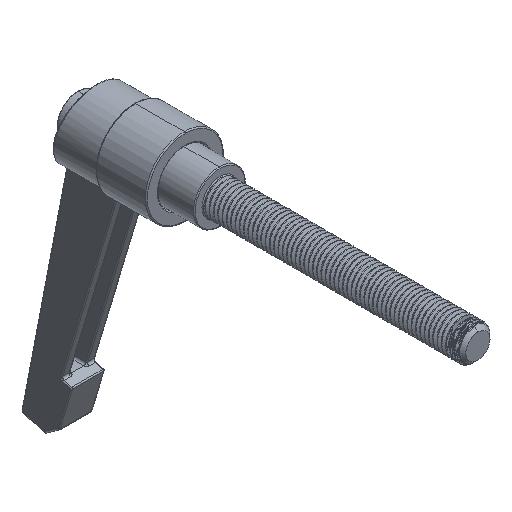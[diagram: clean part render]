
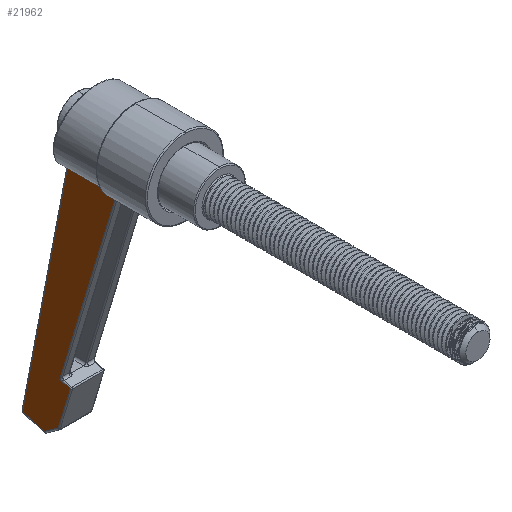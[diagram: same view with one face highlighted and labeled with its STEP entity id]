
A CAD part, isometric view. The second image highlights one B-rep face of the part: STEP entity #21962.
In plain terms, the highlighted planar face has unit normal (-1, 0, 0).
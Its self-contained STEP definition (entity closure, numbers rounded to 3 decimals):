
#1458 = LINE ( 'NONE', #13665, #30300 ) ;
#2034 = LINE ( 'NONE', #35040, #18538 ) ;
#2449 = ORIENTED_EDGE ( 'NONE', *, *, #26228, .T. ) ;
#3523 = DIRECTION ( 'NONE',  ( 0., -0.289, 0.957 ) ) ;
#3609 = DIRECTION ( 'NONE',  ( 0., -0.289, 0.957 ) ) ;
#3978 = VERTEX_POINT ( 'NONE', #16975 ) ;
#4119 = ORIENTED_EDGE ( 'NONE', *, *, #18806, .T. ) ;
#4703 = VERTEX_POINT ( 'NONE', #20793 ) ;
#5063 = ORIENTED_EDGE ( 'NONE', *, *, #39448, .T. ) ;
#5455 = ORIENTED_EDGE ( 'NONE', *, *, #19008, .T. ) ;
#5637 = PLANE ( 'NONE',  #19743 ) ;
#5843 = CARTESIAN_POINT ( 'NONE',  ( -3.9, 0., 0. ) ) ;
#6481 = EDGE_CURVE ( 'NONE', #25973, #13751, #2034, .T. ) ;
#6482 = CARTESIAN_POINT ( 'NONE',  ( -3.9, 11.7, -0.286 ) ) ;
#7804 = CARTESIAN_POINT ( 'NONE',  ( -3.9, 11.7, -0.286 ) ) ;
#7969 = DIRECTION ( 'NONE',  ( 0., -0.817, 0.577 ) ) ;
#8574 = CARTESIAN_POINT ( 'NONE',  ( -3.9, 16.898, -56.3 ) ) ;
#9207 = ORIENTED_EDGE ( 'NONE', *, *, #6481, .T. ) ;
#9908 = VERTEX_POINT ( 'NONE', #7804 ) ;
#9943 = CARTESIAN_POINT ( 'NONE',  ( -3.9, 0.239, 0.072 ) ) ;
#10696 = VECTOR ( 'NONE', #7969, 1000. ) ;
#10993 = LINE ( 'NONE', #35354, #10696 ) ;
#11662 = DIRECTION ( 'NONE',  ( 0., 0., 1. ) ) ;
#12703 = CARTESIAN_POINT ( 'NONE',  ( -3.9, 11.577, -0.298 ) ) ;
#12929 = EDGE_CURVE ( 'NONE', #9908, #15572, #38800, .T. ) ;
#13665 = CARTESIAN_POINT ( 'NONE',  ( -3.9, 0., -0.298 ) ) ;
#13679 = EDGE_CURVE ( 'NONE', #13751, #36163, #18751, .T. ) ;
#13751 = VERTEX_POINT ( 'NONE', #30740 ) ;
#15572 = VERTEX_POINT ( 'NONE', #20863 ) ;
#15682 = CARTESIAN_POINT ( 'NONE',  ( -3.9, 11.66, -0.294 ) ) ;
#16164 = LINE ( 'NONE', #8574, #26633 ) ;
#16975 = CARTESIAN_POINT ( 'NONE',  ( -3.9, 11.577, -0.298 ) ) ;
#17016 = CARTESIAN_POINT ( 'NONE',  ( -3.9, 11.036, -44.646 ) ) ;
#17372 = DIRECTION ( 'NONE',  ( 0., 0.189, -0.982 ) ) ;
#18538 = VECTOR ( 'NONE', #32229, 1000. ) ;
#18751 = LINE ( 'NONE', #9943, #31019 ) ;
#18806 = EDGE_CURVE ( 'NONE', #15572, #4703, #16164, .T. ) ;
#18832 = LINE ( 'NONE', #31015, #26427 ) ;
#18935 = ORIENTED_EDGE ( 'NONE', *, *, #12929, .T. ) ;
#19008 = EDGE_CURVE ( 'NONE', #4703, #24500, #10993, .T. ) ;
#19743 = AXIS2_PLACEMENT_3D ( 'NONE', #5843, #21058, #11662 ) ;
#19918 = ORIENTED_EDGE ( 'NONE', *, *, #23171, .T. ) ;
#20793 = CARTESIAN_POINT ( 'NONE',  ( -3.9, 17.132, -56.23 ) ) ;
#20863 = CARTESIAN_POINT ( 'NONE',  ( -3.9, 22.164, -54.713 ) ) ;
#21058 = DIRECTION ( 'NONE',  ( -1., 0., 0. ) ) ;
#21962 = ADVANCED_FACE ( 'NONE', ( #32827 ), #5637, .T. ) ;
#22283 = CARTESIAN_POINT ( 'NONE',  ( -3.9, 11.619, -0.298 ) ) ;
#22676 = DIRECTION ( 'NONE',  ( 0., 1., 0. ) ) ;
#23171 = EDGE_CURVE ( 'NONE', #36163, #3978, #1458, .T. ) ;
#23807 = CARTESIAN_POINT ( 'NONE',  ( -3.9, 0.351, -0.298 ) ) ;
#24500 = VERTEX_POINT ( 'NONE', #34714 ) ;
#25973 = VERTEX_POINT ( 'NONE', #17016 ) ;
#26228 = EDGE_CURVE ( 'NONE', #24500, #25973, #18832, .T. ) ;
#26427 = VECTOR ( 'NONE', #3609, 1000. ) ;
#26633 = VECTOR ( 'NONE', #38577, 1000. ) ;
#27782 = VECTOR ( 'NONE', #17372, 1000. ) ;
#28275 = EDGE_LOOP ( 'NONE', ( #19918, #5063, #18935, #4119, #5455, #2449, #9207, #32153 ) ) ;
#30067 = B_SPLINE_CURVE_WITH_KNOTS ( 'NONE', 3,
 ( #12703, #22283, #15682, #6482 ),
 .UNSPECIFIED., .F., .F.,
 ( 4, 4 ),
 ( 0., 0. ),
 .UNSPECIFIED. ) ;
#30300 = VECTOR ( 'NONE', #22676, 1000. ) ;
#30740 = CARTESIAN_POINT ( 'NONE',  ( -3.9, 13.492, -43.905 ) ) ;
#31015 = CARTESIAN_POINT ( 'NONE',  ( -3.9, 10.964, -44.406 ) ) ;
#31019 = VECTOR ( 'NONE', #3523, 1000. ) ;
#32153 = ORIENTED_EDGE ( 'NONE', *, *, #13679, .T. ) ;
#32229 = DIRECTION ( 'NONE',  ( 0., 0.957, 0.289 ) ) ;
#32827 = FACE_OUTER_BOUND ( 'NONE', #28275, .T. ) ;
#34714 = CARTESIAN_POINT ( 'NONE',  ( -3.9, 13.823, -53.893 ) ) ;
#35040 = CARTESIAN_POINT ( 'NONE',  ( -3.9, 13.253, -43.978 ) ) ;
#35354 = CARTESIAN_POINT ( 'NONE',  ( -3.9, 14.346, -54.262 ) ) ;
#36163 = VERTEX_POINT ( 'NONE', #23807 ) ;
#38577 = DIRECTION ( 'NONE',  ( 0., -0.957, -0.289 ) ) ;
#38596 = CARTESIAN_POINT ( 'NONE',  ( -3.9, 22.254, -55.181 ) ) ;
#38800 = LINE ( 'NONE', #38596, #27782 ) ;
#39448 = EDGE_CURVE ( 'NONE', #3978, #9908, #30067, .T. ) ;
